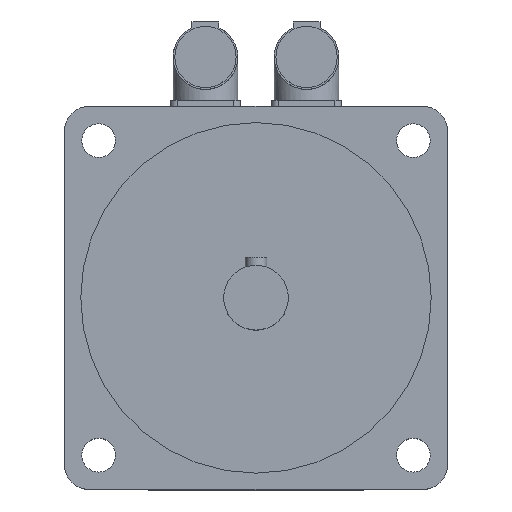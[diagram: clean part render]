
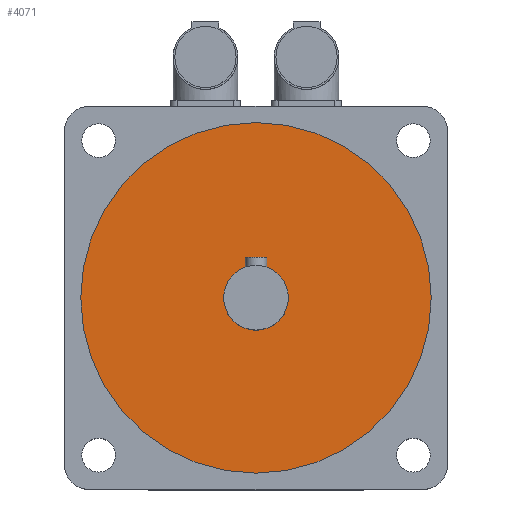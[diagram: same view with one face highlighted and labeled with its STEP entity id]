
A CAD part, top view. The second image highlights one B-rep face of the part: STEP entity #4071.
In plain terms, the highlighted planar face has unit normal (0, 0, 1).
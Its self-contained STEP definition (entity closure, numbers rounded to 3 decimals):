
#28=FACE_BOUND('',#533,.T.);
#79=PLANE('',#4432);
#278=FACE_OUTER_BOUND('',#532,.T.);
#532=EDGE_LOOP('',(#2985));
#533=EDGE_LOOP('',(#2986));
#1517=CIRCLE('',#4427,12.);
#1518=CIRCLE('',#4430,65.);
#1774=VERTEX_POINT('',#6532);
#1775=VERTEX_POINT('',#6536);
#2232=EDGE_CURVE('',#1774,#1774,#1517,.T.);
#2233=EDGE_CURVE('',#1775,#1775,#1518,.T.);
#2985=ORIENTED_EDGE('',*,*,#2233,.T.);
#2986=ORIENTED_EDGE('',*,*,#2232,.T.);
#4071=ADVANCED_FACE('',(#278,#28),#79,.F.);
#4427=AXIS2_PLACEMENT_3D('',#6533,#5205,#5206);
#4430=AXIS2_PLACEMENT_3D('',#6537,#5211,#5212);
#4432=AXIS2_PLACEMENT_3D('',#6540,#5215,#5216);
#5205=DIRECTION('center_axis',(0.,0.,
-1.));
#5206=DIRECTION('ref_axis',(-1.,0.,0.));
#5211=DIRECTION('center_axis',(0.,0.,
1.));
#5212=DIRECTION('ref_axis',(-1.,0.,0.));
#5215=DIRECTION('center_axis',(0.,0.,
-1.));
#5216=DIRECTION('ref_axis',(-1.,0.,0.));
#6532=CARTESIAN_POINT('',(12.,0.,126.5));
#6533=CARTESIAN_POINT('Origin',(0.,0.,
126.5));
#6536=CARTESIAN_POINT('',(65.,0.,126.5));
#6537=CARTESIAN_POINT('Origin',(0.,0.,
126.5));
#6540=CARTESIAN_POINT('Origin',(0.,0.,
126.5));
